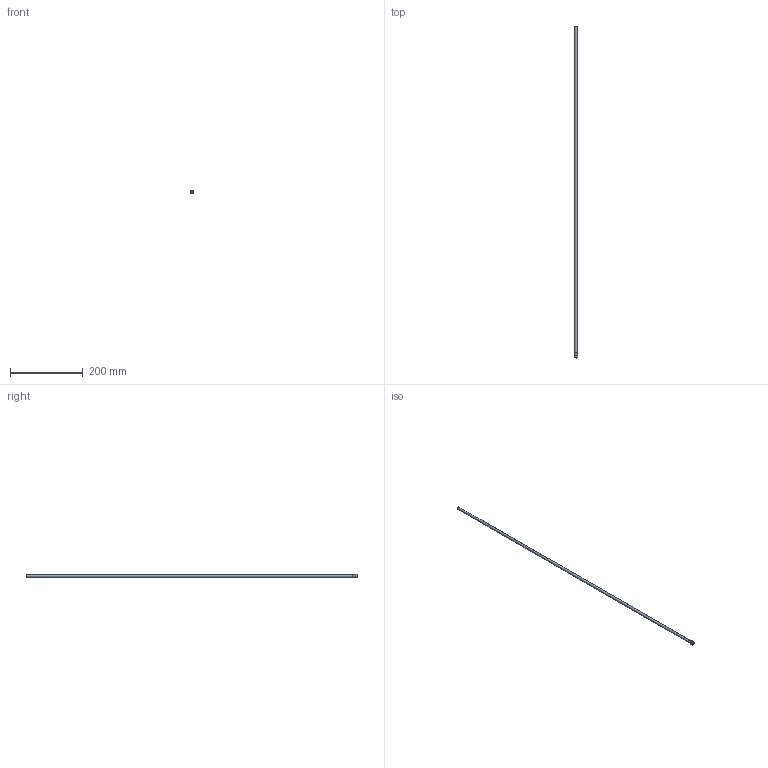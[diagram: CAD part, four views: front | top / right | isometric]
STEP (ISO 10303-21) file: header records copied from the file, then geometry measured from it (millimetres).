
FILE_DESCRIPTION(/* description */ (''),/* implementation_level */ '2;1');
FILE_NAME(/* name */ 'C:/Users/drich/Desktop/R250T-36 v1.step',/* time_stamp */ '2019-12-30T13:16:27-06:00',/* author */ (''),/* organization */ (''),/* preprocessor_version */ 'ST-DEVELOPER v18',/* originating_system */ 'Autodesk Translation Framework v8.12.0.6',/* authorisation */ '');
FILE_SCHEMA (('AUTOMOTIVE_DESIGN { 1 0 10303 214 3 1 1 }'));
Length unit declared in the file: inch
Products named in the file (1): R250T-36
Bounding box: 9.4 x 914.4 x 9.4 mm (x, y, z)
Volume: 4802.1 mm3; surface area: 35209.8 mm2
Topology: 1 solids, 1 shells, 19 faces, 47 edges, 33 vertices
Faces by surface type: plane 11, cylinder 4, torus 3, cone 1
Full cylindrical faces by diameter (mm): 5.842 x1, 6.35 x1, 7.818 x1, 9.398 x1
Entity records: 624 total; most frequent: DIRECTION 111, CARTESIAN_POINT 100, ORIENTED_EDGE 94, EDGE_CURVE 47, AXIS2_PLACEMENT_3D 44, VERTEX_POINT 33, EDGE_LOOP 24, CIRCLE 24
